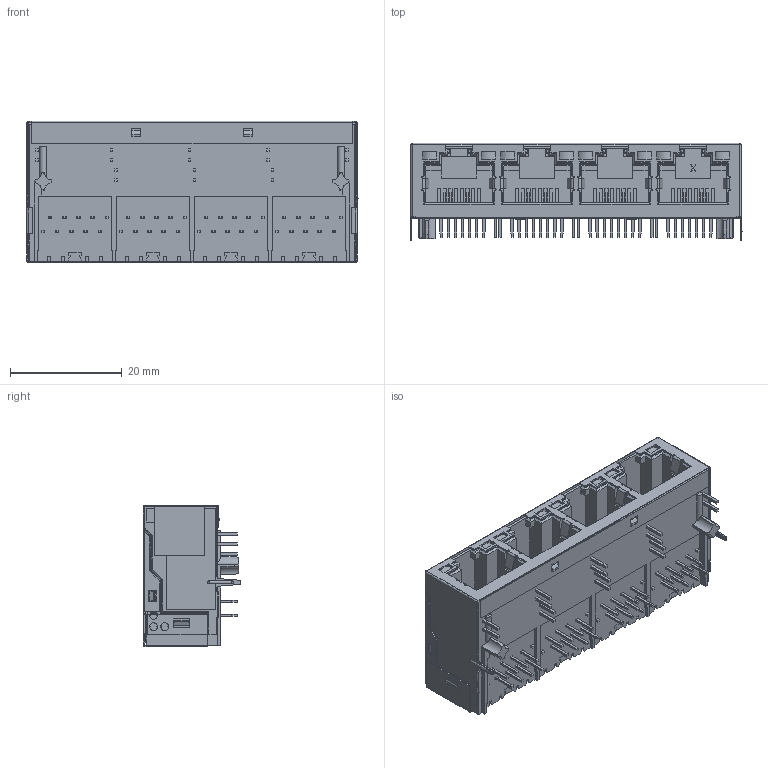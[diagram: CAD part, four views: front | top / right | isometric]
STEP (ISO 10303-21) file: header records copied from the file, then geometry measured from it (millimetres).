
FILE_DESCRIPTION((''),'2;1');
FILE_NAME('DGKYD314B002FD2A2D057','2026-04-15T15:01:22',('DGKYD'),(''),'CREO PARAMETRIC BY PTC INC, 2019010','CREO PARAMETRIC BY PTC INC, 2019010','');
FILE_SCHEMA(('CONFIG_CONTROL_DESIGN'));
Products named in the file (1): DGKYD314B002FD2A2D057
Bounding box: 59.43 x 17.45 x 25.36 mm (x, y, z)
Volume: 13847.7 mm3; surface area: 24085.8 mm2
Topology: 1 solids, 17 shells, 4390 faces, 13161 edges, 8685 vertices
Faces by surface type: plane 3806, cylinder 492, bspline 44, torus 28, sphere 20
Entity records: 148028 total; most frequent: CARTESIAN_POINT 28354, ORIENTED_EDGE 26296, DIRECTION 22981, EDGE_CURVE 13148, VECTOR 11711, LINE 11711, VERTEX_POINT 8685, AXIS2_PLACEMENT_3D 5635
